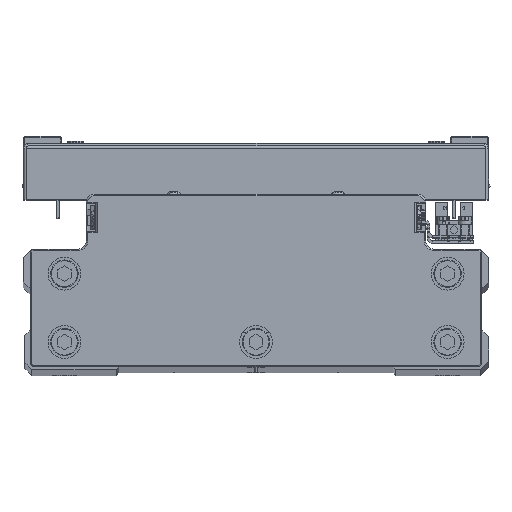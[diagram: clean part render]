
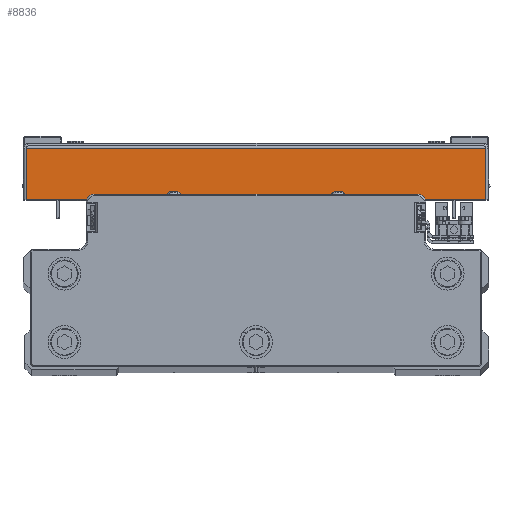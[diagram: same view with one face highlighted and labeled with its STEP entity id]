
A CAD part, top view. The second image highlights one B-rep face of the part: STEP entity #8836.
In plain terms, the highlighted planar face has unit normal (0, 0, 1) as drawn and (1, 0, 0) by its records, which use the part's own axes.
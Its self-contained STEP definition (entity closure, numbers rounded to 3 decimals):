
#96 = EDGE_CURVE ( 'NONE', #39739, #43452, #16248, .T. ) ;
#1845 = ORIENTED_EDGE ( 'NONE', *, *, #13460, .F. ) ;
#2039 = VECTOR ( 'NONE', #35437, 1000. ) ;
#2358 = EDGE_CURVE ( 'NONE', #31211, #43452, #7366, .T. ) ;
#5939 = CARTESIAN_POINT ( 'NONE',  ( 110., 1., -83.929 ) ) ;
#7366 = LINE ( 'NONE', #21420, #2039 ) ;
#8836 = ADVANCED_FACE ( 'NONE', ( #13486 ), #27561, .F. ) ;
#10044 = DIRECTION ( 'NONE',  ( -1., 0., 0. ) ) ;
#10449 = DIRECTION ( 'NONE',  ( 0., 0., 1. ) ) ;
#11612 = VECTOR ( 'NONE', #42195, 1000. ) ;
#12986 = ORIENTED_EDGE ( 'NONE', *, *, #23754, .T. ) ;
#12995 = CARTESIAN_POINT ( 'NONE',  ( 110., 19.5, 83.929 ) ) ;
#13019 = ORIENTED_EDGE ( 'NONE', *, *, #96, .T. ) ;
#13460 = EDGE_CURVE ( 'NONE', #14674, #31211, #27992, .T. ) ;
#13486 = FACE_OUTER_BOUND ( 'NONE', #28020, .T. ) ;
#14101 = LINE ( 'NONE', #28164, #11612 ) ;
#14674 = VERTEX_POINT ( 'NONE', #5939 ) ;
#15752 = VECTOR ( 'NONE', #44325, 1000. ) ;
#16248 = LINE ( 'NONE', #30291, #15752 ) ;
#18201 = AXIS2_PLACEMENT_3D ( 'NONE', #41593, #10044, #24118 ) ;
#20882 = CARTESIAN_POINT ( 'NONE',  ( 110., 1., 83.929 ) ) ;
#21420 = CARTESIAN_POINT ( 'NONE',  ( 110., 0., 83.929 ) ) ;
#23754 = EDGE_CURVE ( 'NONE', #14674, #39739, #14101, .T. ) ;
#24118 = DIRECTION ( 'NONE',  ( 0., -1., 0. ) ) ;
#27561 = PLANE ( 'NONE',  #18201 ) ;
#27992 = LINE ( 'NONE', #42015, #32667 ) ;
#28020 = EDGE_LOOP ( 'NONE', ( #1845, #12986, #13019, #28895 ) ) ;
#28164 = CARTESIAN_POINT ( 'NONE',  ( 110., 0., -83.929 ) ) ;
#28895 = ORIENTED_EDGE ( 'NONE', *, *, #2358, .F. ) ;
#30291 = CARTESIAN_POINT ( 'NONE',  ( 110., 19.5, 0. ) ) ;
#31211 = VERTEX_POINT ( 'NONE', #20882 ) ;
#32667 = VECTOR ( 'NONE', #10449, 1000. ) ;
#35437 = DIRECTION ( 'NONE',  ( 0., 1., 0. ) ) ;
#39739 = VERTEX_POINT ( 'NONE', #44077 ) ;
#41593 = CARTESIAN_POINT ( 'NONE',  ( 110., 0., 0. ) ) ;
#42015 = CARTESIAN_POINT ( 'NONE',  ( 110., 1., 85. ) ) ;
#42195 = DIRECTION ( 'NONE',  ( 0., 1., 0. ) ) ;
#43452 = VERTEX_POINT ( 'NONE', #12995 ) ;
#44077 = CARTESIAN_POINT ( 'NONE',  ( 110., 19.5, -83.929 ) ) ;
#44325 = DIRECTION ( 'NONE',  ( 0., 0., 1. ) ) ;
